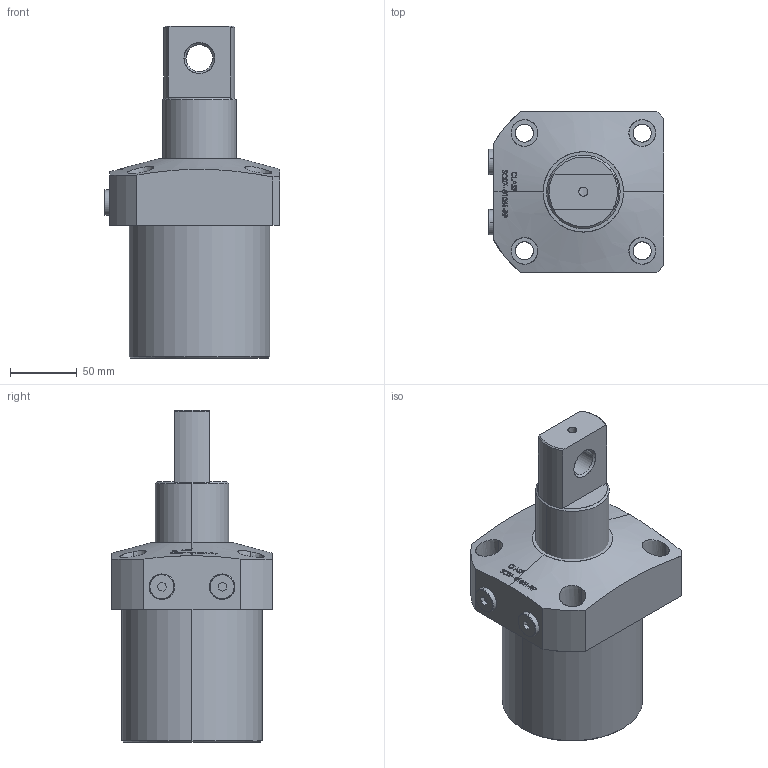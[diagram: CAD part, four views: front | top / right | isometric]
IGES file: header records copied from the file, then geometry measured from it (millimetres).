
Start section: SolidWorks IGES file using analytic representation for surfaces
Global section: file name: D:\karuppas\Clasp\3D model\SWING CYLINDER\Top Mounting swing cylinder-P type\SC07-01051-RP\SC07-01051-RP.IGS; native system: SolidWorks 2017; preprocessor: SolidWorks 2017; author: pc; date: 220708.222958; units: millimetre
Bounding box: 131 x 120 x 248 mm (x, y, z)
Surface area: 118201.2 mm2 (no closed solid volume)
Topology: 0 solids, 0 shells, 333 faces, 5893 edges, 5893 vertices
Faces by surface type: bspline 253, revolution 80
